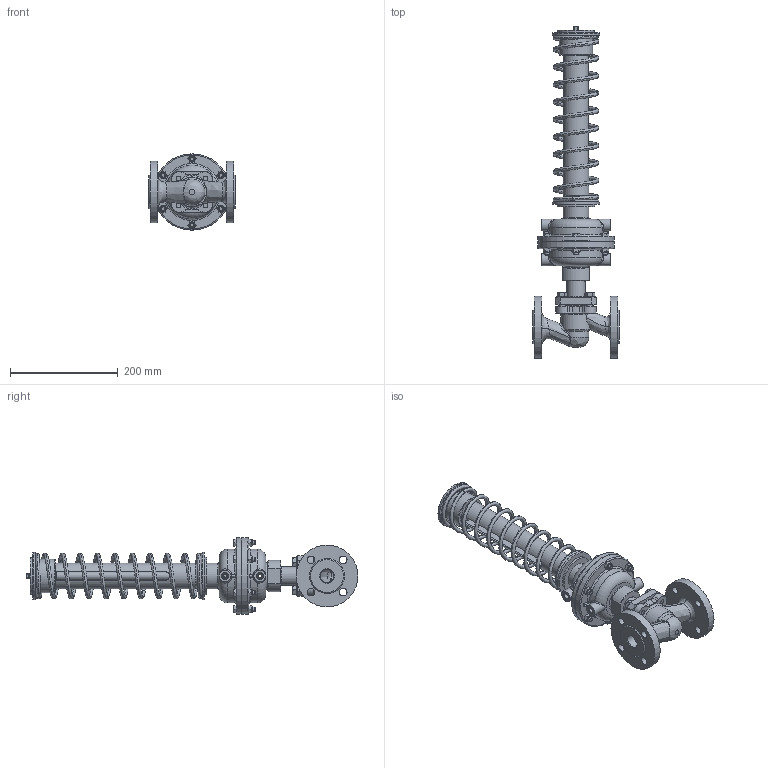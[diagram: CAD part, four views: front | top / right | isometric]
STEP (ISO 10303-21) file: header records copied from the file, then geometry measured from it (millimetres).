
FILE_DESCRIPTION(('STEP AP203'), '1');
FILE_NAME('PA_25-íåðàçáîðíûé.stp', '2017-07-14T08:41:38', ('UNSPECIFIED'), ('UNSPECIFIED'), 'ASCON STEP Converter 1.0', 'Kompas 3D', '');
FILE_SCHEMA(('CONFIG_CONTROL_DESIGN'));
Length unit declared in the file: millimetre
Products named in the file (1): 10
Bounding box: 160 x 617.5 x 142 mm (x, y, z)
Volume: 1454195.5 mm3; surface area: 448102.8 mm2
Topology: 3 solids, 3 shells, 665 faces, 1566 edges, 975 vertices
Faces by surface type: plane 252, cylinder 177, bspline 101, cone 85, torus 48, sphere 2
Full cylindrical faces by diameter (mm): 2 x1, 4 x1, 6.5 x1, 7 x4, 8 x6, 8.5 x4, 10 x5, 10.5 x4, 11 x6, 12 x7, 13.7 x1, 14 x9, 14.5 x2, 15 x3, 16 x1, 17 x1, 20 x10, 22 x4, 25 x2, 26 x1, 28 x1, 30 x2, 31.5 x1, 34 x2, 40 x1, 41 x1, 42 x4, 46 x1, 48 x4, 48.5 x1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
Entity records: 49592 total; most frequent: CARTESIAN_POINT 35214, ORIENTED_EDGE 3108, DIRECTION 2658, EDGE_CURVE 1554, AXIS2_PLACEMENT_3D 1065, VERTEX_POINT 971, EDGE_LOOP 793, ADVANCED_FACE 665
